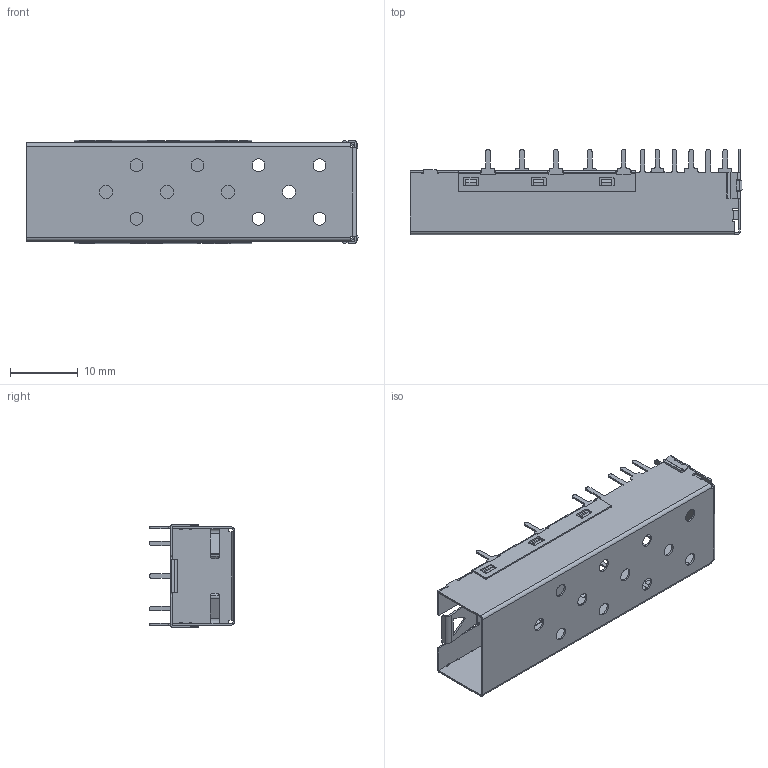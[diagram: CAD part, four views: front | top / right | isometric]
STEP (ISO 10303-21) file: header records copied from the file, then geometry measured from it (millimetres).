
FILE_DESCRIPTION (( 'STEP AP214' ), '1' );
FILE_NAME ('SS10-3005240000-0000-X.STEP', '2021-07-14T03:13:13', ( '' ), ( '' ), 'SwSTEP 2.0', 'SolidWorks 2012', '' );
FILE_SCHEMA (( 'AUTOMOTIVE_DESIGN' ));
Length unit declared in the file: millimetre
Products named in the file (3): SS10-3005240000-0000-X; SB10-S110-1_dip2.80-Legs17-³»³¡´²¼ö¶ê¤Õ1.9-¥þªø¸}-single; SB10-S120_flat
Assembly tree (2 placements, depth 2):
  SS10-3005240000-0000-X
    SB10-S110-1_dip2.80-Legs17-³»³¡´²¼ö¶ê¤Õ1.9-¥þªø¸}-single
    SB10-S120_flat
Bounding box: 48.97 x 12.6 x 15.27 mm (x, y, z)
Volume: 580 mm3; surface area: 4809.4 mm2
Topology: 2 solids, 2 shells, 895 faces, 2487 edges, 1590 vertices
Faces by surface type: plane 512, cylinder 379, bspline 4
Entity records: 28753 total; most frequent: CARTESIAN_POINT 5093, DIRECTION 4989, ORIENTED_EDGE 4974, EDGE_CURVE 2487, VECTOR 1713, LINE 1713, AXIS2_PLACEMENT_3D 1638, VERTEX_POINT 1590
